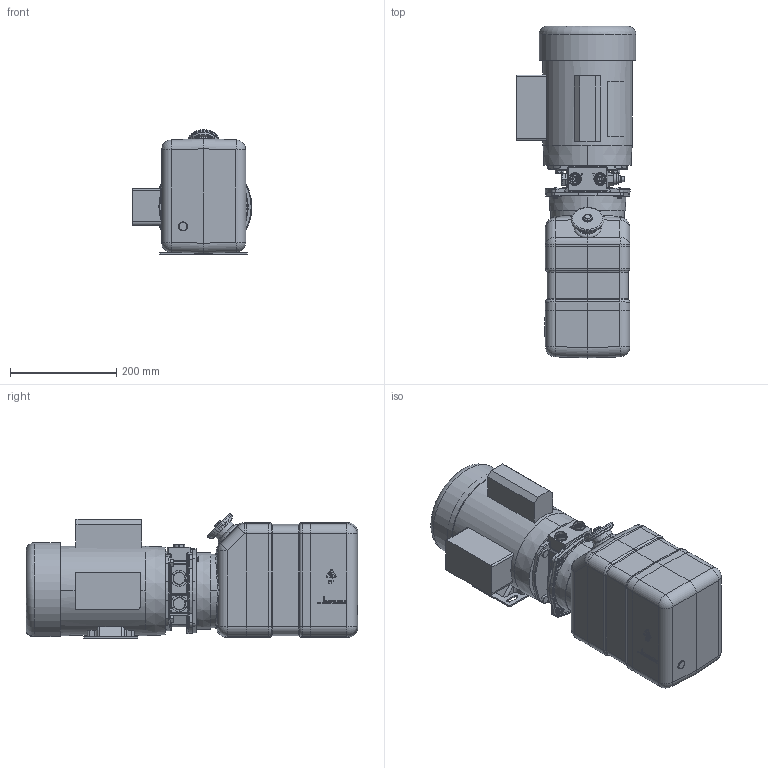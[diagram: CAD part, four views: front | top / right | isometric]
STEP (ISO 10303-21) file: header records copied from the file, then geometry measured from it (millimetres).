
FILE_DESCRIPTION((''),'2;1');
FILE_NAME('644221_SW0001','2015-01-05T',('GB10196'),('OILDYNE'),'PRO/ENGINEER BY PARAMETRIC TECHNOLOGY CORPORATION, 2009300','PRO/ENGINEER BY PARAMETRIC TECHNOLOGY CORPORATION, 2009300','');
FILE_SCHEMA(('CONFIG_CONTROL_DESIGN'));
Products named in the file (1): 644221_SW0001
Bounding box: 225.67 x 624.84 x 234.17 mm (x, y, z)
Surface area: 889209.7 mm2 (no closed solid volume)
Topology: 0 solids, 64 shells, 1691 faces, 4880 edges, 3198 vertices
Faces by surface type: cylinder 490, plane 470, bspline 250, cone 233, torus 141, sphere 107
Entity records: 67412 total; most frequent: CARTESIAN_POINT 25476, DIRECTION 8530, ORIENTED_EDGE 8313, EDGE_CURVE 4873, AXIS2_PLACEMENT_3D 3256, VERTEX_POINT 3198, VECTOR 2018, LINE 2018
